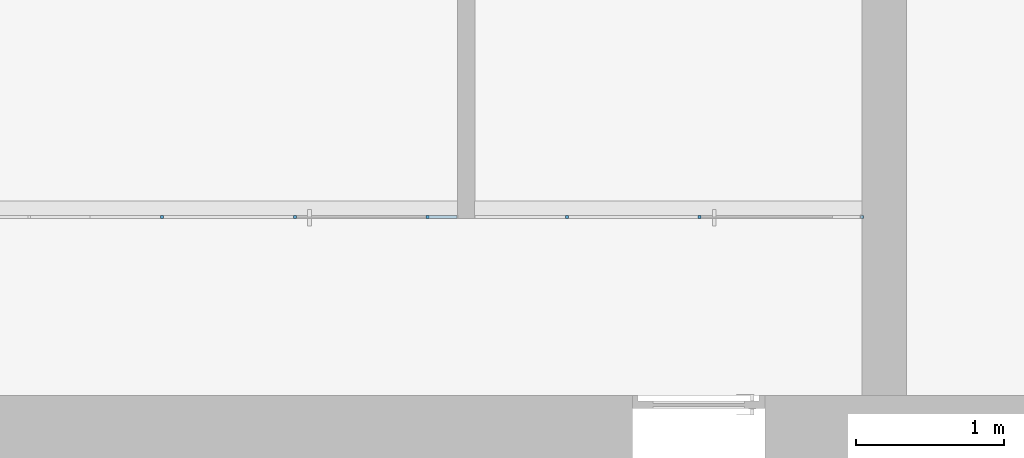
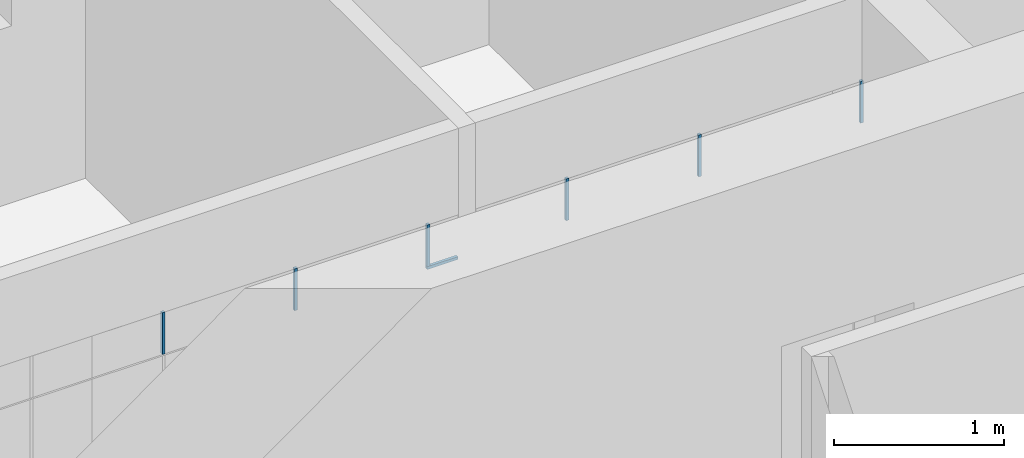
# One storey, part 6 of 49: 7 members, 2 elements without a shape of their own.
"""IFC2X3 building model written with IfcOpenShell, lengths in millimetres."""

from ifc_helpers import new_model, entity, si_unit, converted_unit, derived_unit, direction, frame, origin, origin_2d_with_axis, place, context, subcontext, project, spatial, rectangle, extrude, source, transform, mapped, material, type_object, type_shapes, element, aggregate, save


model = new_model("IFC2X3")

# Units and contexts
model_context = context("Model", 3, precision=0.01, world=origin(), true_north=direction((6.12303176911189e-17, 1.0)))
body_context = subcontext(model_context, "Body", "Model", "MODEL_VIEW")
ifc_project = project(units=[si_unit("LENGTHUNIT", "METRE", prefix="MILLI"), si_unit("AREAUNIT", "SQUARE_METRE"), si_unit("VOLUMEUNIT", "CUBIC_METRE"), converted_unit("PLANEANGLEUNIT", "DEGREE", entity("IfcRatioMeasure", 0.0174532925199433), si_unit("PLANEANGLEUNIT", "RADIAN"), dimensions=[0, 0, 0, 0, 0, 0, 0]), si_unit("MASSUNIT", "GRAM", prefix="KILO"), derived_unit("MASSDENSITYUNIT", [(si_unit("MASSUNIT", "GRAM", prefix="KILO"), 1), (si_unit("LENGTHUNIT", "METRE"), -3)]), si_unit("TIMEUNIT", "SECOND"), si_unit("FREQUENCYUNIT", "HERTZ"), si_unit("THERMODYNAMICTEMPERATUREUNIT", "DEGREE_CELSIUS"), derived_unit("THERMALTRANSMITTANCEUNIT", [(si_unit("MASSUNIT", "GRAM", prefix="KILO"), 1), (si_unit("THERMODYNAMICTEMPERATUREUNIT", "KELVIN"), -1), (si_unit("TIMEUNIT", "SECOND"), -3)]), derived_unit("VOLUMETRICFLOWRATEUNIT", [(si_unit("LENGTHUNIT", "METRE"), 3), (si_unit("TIMEUNIT", "SECOND"), -1)]), si_unit("ELECTRICCURRENTUNIT", "AMPERE"), si_unit("ELECTRICVOLTAGEUNIT", "VOLT"), si_unit("POWERUNIT", "WATT"), si_unit("FORCEUNIT", "NEWTON", prefix="KILO"), si_unit("ILLUMINANCEUNIT", "LUX"), si_unit("LUMINOUSFLUXUNIT", "LUMEN"), si_unit("LUMINOUSINTENSITYUNIT", "CANDELA"), derived_unit("USERDEFINED", [(si_unit("MASSUNIT", "GRAM", prefix="KILO"), -1), (si_unit("LENGTHUNIT", "METRE"), -2), (si_unit("TIMEUNIT", "SECOND"), 3), (si_unit("LUMINOUSFLUXUNIT", "LUMEN"), 1)]), derived_unit("LINEARVELOCITYUNIT", [(si_unit("LENGTHUNIT", "METRE"), 1), (si_unit("TIMEUNIT", "SECOND"), -1)]), si_unit("PRESSUREUNIT", "PASCAL"), derived_unit("USERDEFINED", [(si_unit("LENGTHUNIT", "METRE"), -2), (si_unit("MASSUNIT", "GRAM", prefix="KILO"), 1), (si_unit("TIMEUNIT", "SECOND"), -2)])], contexts=[model_context])

# Site, building, storey
site_placement = place(None, frame((-151.875543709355, 2715.0, 0.0)))
site = spatial("IfcSite", under=ifc_project, at=site_placement, Name="Surface", CompositionType="ELEMENT")
building_placement = place(site_placement, origin())
building = spatial("IfcBuilding", under=site, at=building_placement, CompositionType="ELEMENT")
storey_placement = place(building_placement, origin())
storey = spatial("IfcBuildingStorey", under=building, at=storey_placement, Name="1 korrus", CompositionType="ELEMENT", Elevation=3.0969999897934e-10)

# Curtain wall, members
curtain_wall_type_1 = type_object("IfcCurtainWallType", Name="Curtain Wall:Klaassein KLS-04", PredefinedType="NOTDEFINED")
curtain_wall_1_placement = place(storey_placement, origin())
curtain_wall_1 = element("IfcCurtainWall", 1, at=curtain_wall_1_placement, inside=storey, type_object=curtain_wall_type_1, Name="Curtain Wall:Klaassein KLS-04", ObjectType="Curtain Wall:Klaassein KLS-04")
ifc_material = material(Name="__Uks_hele tamm")
member_type_1 = type_object("IfcMemberType", Name="20 x 20mm", PredefinedType="MEMBER")
shared_shape_1 = source(origin(), body_context, "Body", "SweptSolid", [
    extrude(rectangle(XDim=20.0, YDim=20.0, at=origin_2d_with_axis()), frame((0.0, 0.0, -300.0), z_axis=(0.0, 0.0, 1.0), x_axis=(0.0, -1.0, 0.0)), (0.0, 0.0, 1.0), 299.999999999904),
])
type_shapes(member_type_1, [shared_shape_1])
member_1_placement = place(storey_placement, frame((28845.0994792, 7770.0, 2100.0), z_axis=(0.0, 0.0, -1.0), x_axis=(1.0, 0.0, 0.0)))
member_1 = element("IfcMember", 2, at=member_1_placement, type_object=member_type_1, material=ifc_material, Name="Rectangular Mullion:20 x 20mm", ObjectType="20 x 20mm", context=body_context, shape_type="MappedRepresentation", body=[
    mapped(shared_shape_1, transform((0.0, 0.0, 0.0), scale=1.0)),
])
member_2_placement = place(storey_placement, frame((27745.0994792, 7770.0, 2100.0), z_axis=(0.0, 0.0, -1.0), x_axis=(1.0, 0.0, 0.0)))
member_2 = element("IfcMember", 3, at=member_2_placement, type_object=member_type_1, material=ifc_material, Name="Rectangular Mullion:20 x 20mm", ObjectType="20 x 20mm", context=body_context, shape_type="MappedRepresentation", body=[
    mapped(shared_shape_1, transform((0.0, 0.0, 0.0), scale=1.0)),
])
member_3_placement = place(storey_placement, frame((26845.0994792, 7770.0, 2100.0), z_axis=(0.0, 0.0, -1.0), x_axis=(1.0, 0.0, 0.0)))
member_3 = element("IfcMember", 4, at=member_3_placement, type_object=member_type_1, material=ifc_material, Name="Rectangular Mullion:20 x 20mm", ObjectType="20 x 20mm", context=body_context, shape_type="MappedRepresentation", body=[
    mapped(shared_shape_1, transform((0.0, 0.0, 0.0), scale=1.0)),
])
aggregate(curtain_wall_1, [member_1, member_2, member_3])

curtain_wall_type_2 = type_object("IfcCurtainWallType", Name="Curtain Wall:Klaassein KLS-03", PredefinedType="NOTDEFINED")
curtain_wall_2_placement = place(storey_placement, origin())
curtain_wall_2 = element("IfcCurtainWall", 5, at=curtain_wall_2_placement, inside=storey, type_object=curtain_wall_type_2, Name="Curtain Wall:Klaassein KLS-03", ObjectType="Curtain Wall:Klaassein KLS-03")
member_4_placement = place(storey_placement, frame((25901.2300720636, 7770.0, 2100.0), z_axis=(0.0, 0.0, -1.0), x_axis=(1.0, 0.0, 0.0)))
member_4 = element("IfcMember", 6, at=member_4_placement, type_object=member_type_1, material=ifc_material, Name="Rectangular Mullion:20 x 20mm", ObjectType="20 x 20mm", context=body_context, shape_type="MappedRepresentation", body=[
    mapped(shared_shape_1, transform((0.0, 0.0, 0.0), scale=1.0)),
])
member_5_placement = place(storey_placement, frame((25001.2300720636, 7770.0, 2100.0), z_axis=(0.0, 0.0, -1.0), x_axis=(1.0, 0.0, 0.0)))
member_5 = element("IfcMember", 7, at=member_5_placement, type_object=member_type_1, material=ifc_material, Name="Rectangular Mullion:20 x 20mm", ObjectType="20 x 20mm", context=body_context, shape_type="MappedRepresentation", body=[
    mapped(shared_shape_1, transform((0.0, 0.0, 0.0), scale=1.0)),
])
member_6_placement = place(storey_placement, frame((24101.2300720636, 7770.0, 2100.0), z_axis=(0.0, 0.0, -1.0), x_axis=(1.0, 0.0, 0.0)))
member_6 = element("IfcMember", 8, at=member_6_placement, type_object=member_type_1, material=ifc_material, Name="Rectangular Mullion:20 x 20mm", ObjectType="20 x 20mm", context=body_context, shape_type="MappedRepresentation", body=[
    mapped(shared_shape_1, transform((0.0, 0.0, 0.0), scale=1.0)),
])
member_type_2 = type_object("IfcMemberType", Name="20 x 20mm", PredefinedType="MEMBER")
shared_shape_2 = source(origin(), body_context, "Body", "SweptSolid", [
    extrude(rectangle(XDim=20.0, YDim=20.0, at=origin_2d_with_axis()), frame((0.0, 0.0, -210.0), z_axis=(0.0, 0.0, 1.0), x_axis=(0.0, -1.0, 0.0)), (0.0, 0.0, 1.0), 210.000000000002),
])
type_shapes(member_type_2, [shared_shape_2])
member_7_placement = place(storey_placement, frame((26101.2300720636, 7770.0, 2090.0), z_axis=(1.0, 0.0, 0.0), x_axis=(0.0, 0.0, 1.0)))
member_7 = element("IfcMember", 9, at=member_7_placement, type_object=member_type_2, material=ifc_material, Name="Rectangular Mullion:20 x 20mm", ObjectType="20 x 20mm", context=body_context, shape_type="MappedRepresentation", body=[
    mapped(shared_shape_2, transform((0.0, 0.0, 0.0), scale=1.0)),
])
aggregate(curtain_wall_2, [member_4, member_5, member_7, member_6])

save(model, "model.ifc")
